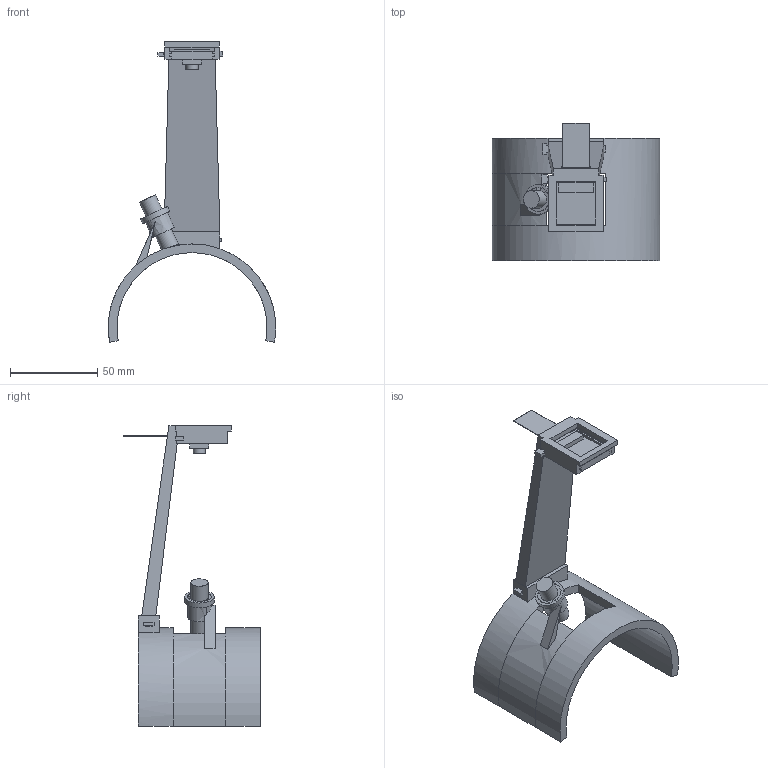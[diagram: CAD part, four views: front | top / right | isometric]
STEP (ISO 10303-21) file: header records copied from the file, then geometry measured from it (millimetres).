
FILE_DESCRIPTION(('SolidCraft model'),'2;1');
FILE_NAME('assembly_standard.step','',(''),(''),'SolidCraft','SolidCraft','');
FILE_SCHEMA(('AP242_MANAGED_MODEL_BASED_3D_ENGINEERING_MIM_LF { 1 0 10303 442 1 1 4 }'));
Length unit declared in the file: millimetre
Products named in the file (1): assembly_standard
Bounding box: 95.94 x 78.46 x 172.27 mm (x, y, z)
Volume: 83495 mm3; surface area: 43306.4 mm2
Topology: 10 solids, 10 shells, 166 faces, 479 edges, 330 vertices
Faces by surface type: plane 153, cylinder 8, bspline 5
Full cylindrical faces by diameter (mm): 6.95 x1, 10 x1, 13.7 x1, 17 x1
Entity records: 4693 total; most frequent: ORIENTED_EDGE 958, CARTESIAN_POINT 920, EDGE_CURVE 479, LINE 414, VERTEX_POINT 330, DIRECTION 328, VECTOR 325, EDGE_LOOP 183
